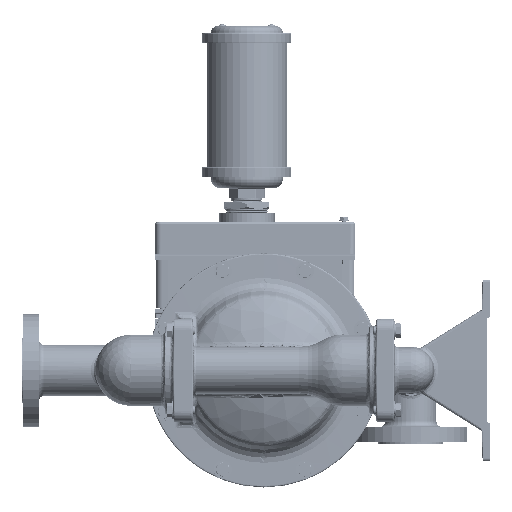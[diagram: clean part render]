
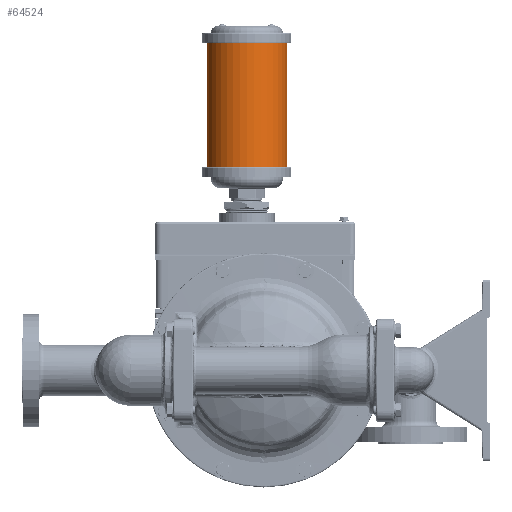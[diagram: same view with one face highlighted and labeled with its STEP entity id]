
A CAD part, left-side view. The second image highlights one B-rep face of the part: STEP entity #64524.
In plain terms, the highlighted cylindrical face has radius 45.339 mm (diameter 90.678 mm), a partial arc.
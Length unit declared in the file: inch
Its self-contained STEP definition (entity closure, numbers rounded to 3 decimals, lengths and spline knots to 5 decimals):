
#14365 = EDGE_CURVE ( 'NONE', #182514, #25179, #170182, .T. ) ;
#22022 = CARTESIAN_POINT ( 'NONE',  ( 0., 0.75, 8.983 ) ) ;
#25179 = VERTEX_POINT ( 'NONE', #347882 ) ;
#29965 = CARTESIAN_POINT ( 'NONE',  ( 0., 2.535, 14.483 ) ) ;
#45897 = ORIENTED_EDGE ( 'NONE', *, *, #508414, .F. ) ;
#64524 = ADVANCED_FACE ( 'NONE', ( #441002 ), #381103, .T. ) ;
#84271 = DIRECTION ( 'NONE',  ( 0., 0., -1. ) ) ;
#118734 = AXIS2_PLACEMENT_3D ( 'NONE', #22022, #125369, #332006 ) ;
#125369 = DIRECTION ( 'NONE',  ( 0., 0., 1. ) ) ;
#127842 = ORIENTED_EDGE ( 'NONE', *, *, #247490, .T. ) ;
#130543 = EDGE_LOOP ( 'NONE', ( #167327, #127842, #226184, #45897 ) ) ;
#167327 = ORIENTED_EDGE ( 'NONE', *, *, #14365, .T. ) ;
#170182 = CIRCLE ( 'NONE', #118734, 1.785 ) ;
#182185 = DIRECTION ( 'NONE',  ( 0., 1., 0. ) ) ;
#182514 = VERTEX_POINT ( 'NONE', #568301 ) ;
#183640 = CIRCLE ( 'NONE', #236969, 1.785 ) ;
#226184 = ORIENTED_EDGE ( 'NONE', *, *, #372753, .F. ) ;
#236969 = AXIS2_PLACEMENT_3D ( 'NONE', #542196, #242061, #182185 ) ;
#242061 = DIRECTION ( 'NONE',  ( 0., 0., 1. ) ) ;
#247490 = EDGE_CURVE ( 'NONE', #25179, #265722, #326280, .T. ) ;
#261958 = AXIS2_PLACEMENT_3D ( 'NONE', #497518, #84271, #494241 ) ;
#265722 = VERTEX_POINT ( 'NONE', #398427 ) ;
#272750 = VERTEX_POINT ( 'NONE', #29965 ) ;
#285882 = LINE ( 'NONE', #642579, #439424 ) ;
#326280 = LINE ( 'NONE', #336134, #472492 ) ;
#329319 = DIRECTION ( 'NONE',  ( 0., 0., 1. ) ) ;
#332006 = DIRECTION ( 'NONE',  ( 0., 1., 0. ) ) ;
#336134 = CARTESIAN_POINT ( 'NONE',  ( 0., -1.035, 8.983 ) ) ;
#347882 = CARTESIAN_POINT ( 'NONE',  ( 0., -1.035, 8.983 ) ) ;
#372753 = EDGE_CURVE ( 'NONE', #272750, #265722, #183640, .T. ) ;
#381103 = CYLINDRICAL_SURFACE ( 'NONE', #261958, 1.785 ) ;
#398427 = CARTESIAN_POINT ( 'NONE',  ( 0., -1.035, 14.483 ) ) ;
#439424 = VECTOR ( 'NONE', #329319, 39.37008 ) ;
#441002 = FACE_OUTER_BOUND ( 'NONE', #130543, .T. ) ;
#472492 = VECTOR ( 'NONE', #586232, 39.37008 ) ;
#494241 = DIRECTION ( 'NONE',  ( 0., -1., 0. ) ) ;
#497518 = CARTESIAN_POINT ( 'NONE',  ( 0., 0.75, 15.592 ) ) ;
#508414 = EDGE_CURVE ( 'NONE', #182514, #272750, #285882, .T. ) ;
#542196 = CARTESIAN_POINT ( 'NONE',  ( 0., 0.75, 14.483 ) ) ;
#568301 = CARTESIAN_POINT ( 'NONE',  ( 0., 2.535, 8.983 ) ) ;
#586232 = DIRECTION ( 'NONE',  ( 0., 0., 1. ) ) ;
#642579 = CARTESIAN_POINT ( 'NONE',  ( 0., 2.535, 8.983 ) ) ;
